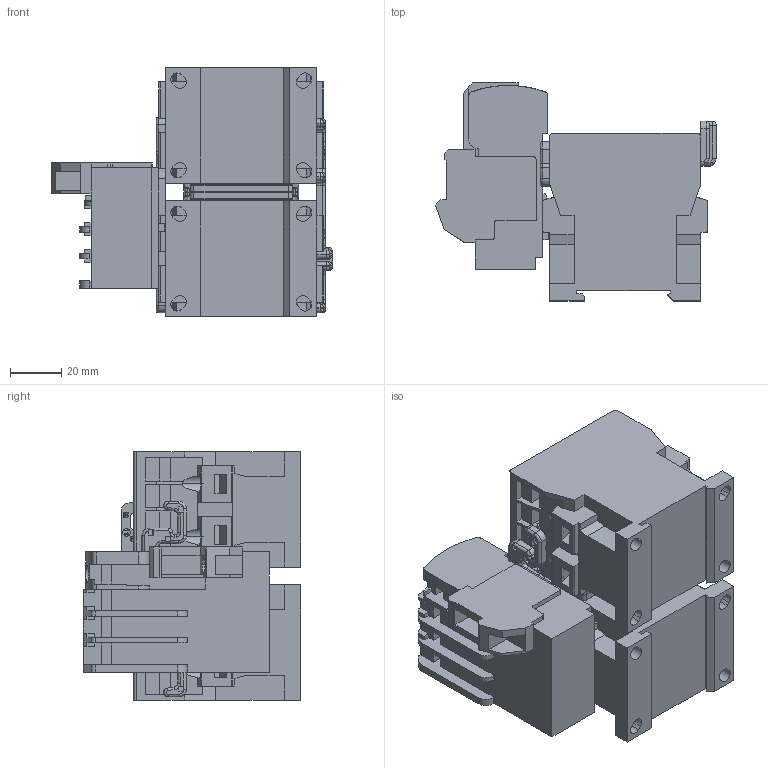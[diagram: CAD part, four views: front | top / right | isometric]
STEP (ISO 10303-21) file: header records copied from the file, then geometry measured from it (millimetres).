
FILE_DESCRIPTION (( 'STEP AP203' ), '1' );
FILE_NAME ('K3NWU-07_10_14_22+U12_16_K3.STEP', '2014-03-11T12:59:40', ( '' ), ( '' ), 'SwSTEP 2.0', 'SolidWorks 2014', '' );
FILE_SCHEMA (( 'CONFIG_CONTROL_DESIGN' ));
Length unit declared in the file: millimetre
Products named in the file (18): K3NWU-07_10_14_22+U12_16_K3; 65279; 65278; K3-10N; 65277; 28468; 65276; Imported44; 65061; 65058; 47922; 65063; Imported45; 65104; 47924; U12_16_E1
Assembly tree (18 placements, depth 3):
  K3NWU-07_10_14_22+U12_16_K3
    K3-10N  x2
    47924
      28468
      Imported44
      47922
      Imported45
    65276
      65276
      65279
      65278
      65277
    65058
      65058
      65061
      65063
      65104
    U12_16_E1
Bounding box: 109.5 x 85.1 x 97 mm (x, y, z)
Volume: 393487.1 mm3; surface area: 89355.2 mm2
Topology: 15 solids, 15 shells, 2501 faces, 6685 edges, 4321 vertices
Faces by surface type: plane 1378, cylinder 708, bspline 251, torus 152, cone 12
Entity records: 83685 total; most frequent: CARTESIAN_POINT 27936, ORIENTED_EDGE 11802, DIRECTION 10470, EDGE_CURVE 5901, VERTEX_POINT 3811, VECTOR 3566, LINE 3566, AXIS2_PLACEMENT_3D 3452
